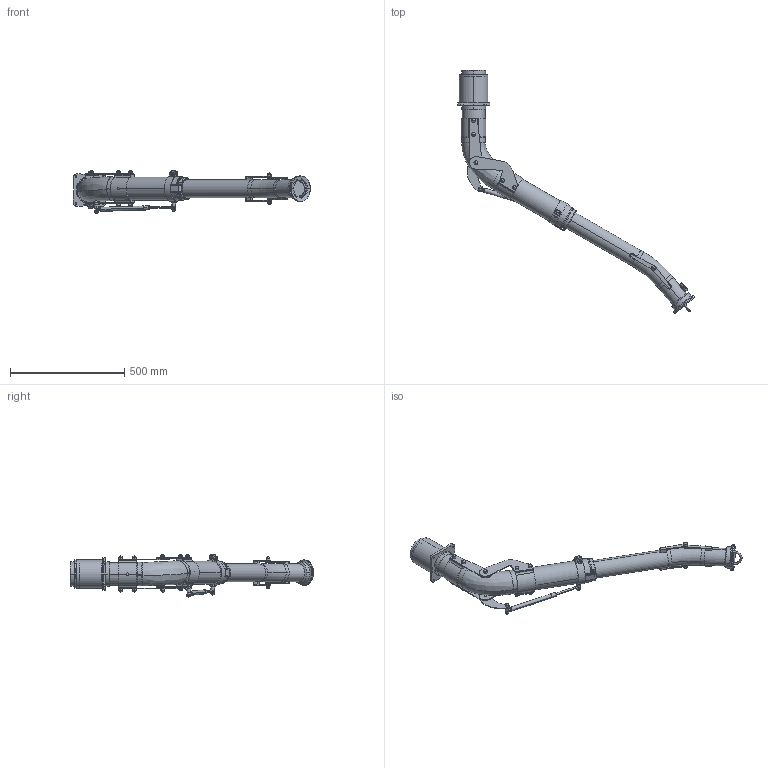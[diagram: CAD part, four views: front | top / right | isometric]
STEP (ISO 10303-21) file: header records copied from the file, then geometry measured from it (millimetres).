
FILE_DESCRIPTION((''),'2;1');
FILE_NAME('109420-REF','2020-04-21T07:48:54',('Tomas Bellgran'),(''),'CREO PARAMETRIC BY PTC INC, 2018260','CREO PARAMETRIC BY PTC INC, 2018260','');
FILE_SCHEMA(('AUTOMOTIVE_DESIGN { 1 0 10303 214 1 1 1 1 }'));
Length unit declared in the file: millimetre
Products named in the file (48): 100945; 100252; 100940; 100935; 106-308; 106-311; 106-412_LIGHT; 106-408-03; 106-408-02; SPACER; 109549; 106-015; 106-554; 106-408-01; 105-559-11; 105-559-21; 105-559-01; 9900420; SCREW_SPRING; 106-708; 106-034; 106-555; 106-707_AF6; 106-024; 109472; 106-399; 121718; 121648; 121611; 117006; 106-832; 117011; 106-821; 106-823; 106-050; 106-822; 106-824; 109572; 109445_AF40; 109430_AF1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
Assembly tree (72 placements, depth 4):
  109420-REF
    106-015
      106-311
        100945
        100252
        100940
        100935  x2
        106-308
      106-412_LIGHT
      106-408-03
      106-408-02
      SPACER
      109549  x5
    106-034
      106-554
      106-412_LIGHT
      106-408-01  x2
      105-559-01
        105-559-11
        105-559-21
      9900420
      109549  x5
      SCREW_SPRING
      106-708
    106-024
      106-555
      106-707_AF6
    109472  x2
    106-050
      106-399
      121611
        121718
        121648
      117006
      106-832
      117011
      106-821  x2
      106-823  x2
    106-822  x2
    106-824  x2
    109572  x2
    109445_AF40
    109430_AF1
    126107_AF13
      126107_TUBE-REF
      126107_ROD-REF
      109948  x2
    100107
      LOCK_NUT_M8_DIN985-REF
      LOCK_NUT_M8_DIN985_PL-REF
    109549  x6
Bounding box: 1039.21 x 1065.69 x 189 mm (x, y, z)
Volume: 14735897.5 mm3; surface area: 1198268.5 mm2
Topology: 63 solids, 63 shells, 947 faces, 2294 edges, 1457 vertices
Faces by surface type: plane 388, cylinder 301, cone 121, sphere 66, bspline 41, torus 28, extrusion 2
Entity records: 43098 total; most frequent: CARTESIAN_POINT 17902, DIRECTION 3253, ORIENTED_EDGE 2942, PRESENTATION_STYLE_ASSIGNMENT 1984, STYLED_ITEM 1984, EDGE_CURVE 1471, CURVE_STYLE 1459, AXIS2_PLACEMENT_3D 1336
